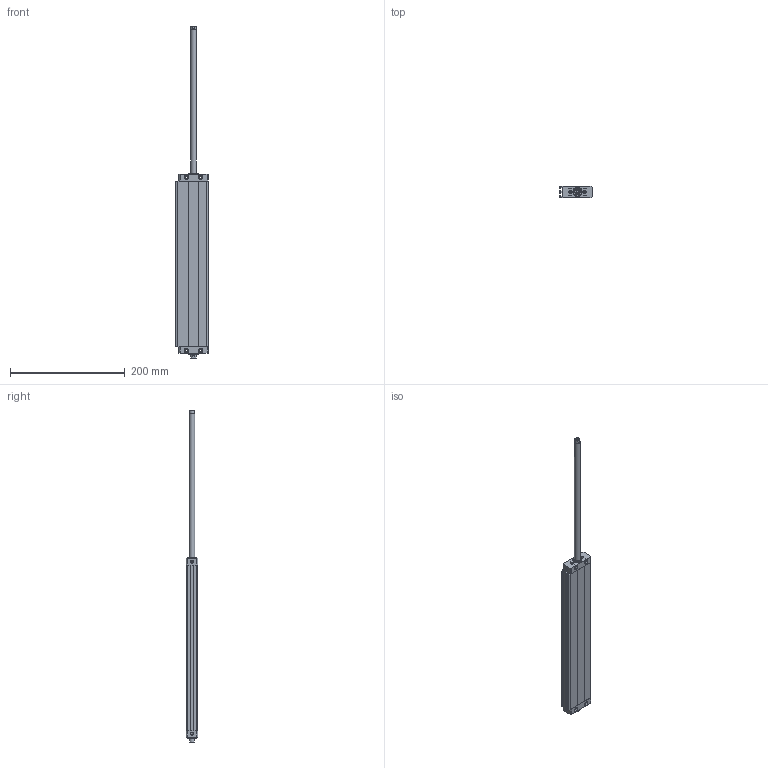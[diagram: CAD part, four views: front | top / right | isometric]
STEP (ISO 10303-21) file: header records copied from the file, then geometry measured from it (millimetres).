
FILE_DESCRIPTION((''),'2;1');
FILE_NAME('I:\Area Tecnica\Disegni\VARIE-3D\Componenti\1370 - CPO\1370_##_0000_03\1370_25_0250_03-01.iam.step','2010-12-16T10:53:42',(''),(''),'Autodesk Inventor 2011','Autodesk Inventor 2011','');
FILE_SCHEMA(('AUTOMOTIVE_DESIGN { 1 0 10303 214 1 1 1 1 }'));
Length unit declared in the file: millimetre
Products named in the file (5): 1370_25_0250_03-01; 1370_05_25_0000; 1370_06_25_0250; 1370_08_25_0000; 1370_3_25_0250
Assembly tree (4 placements, depth 2):
  1370_25_0250_03-01
    1370_05_25_0000
    1370_06_25_0250
    1370_08_25_0000
    1370_3_25_0250
Bounding box: 56.25 x 20 x 578 mm (x, y, z)
Volume: 217245.3 mm3; surface area: 110793.9 mm2
Topology: 4 solids, 4 shells, 158 faces, 378 edges, 238 vertices
Faces by surface type: plane 90, cylinder 48, cone 20
Full cylindrical faces by diameter (mm): 4.2 x22, 5.2 x2, 8 x8, 9.5 x2, 10 x4, 16 x2
Entity records: 4480 total; most frequent: DIRECTION 750, CARTESIAN_POINT 695, ORIENTED_EDGE 608, EDGE_CURVE 304, AXIS2_PLACEMENT_3D 279, EDGE_LOOP 250, VERTEX_POINT 224, VECTOR 192
